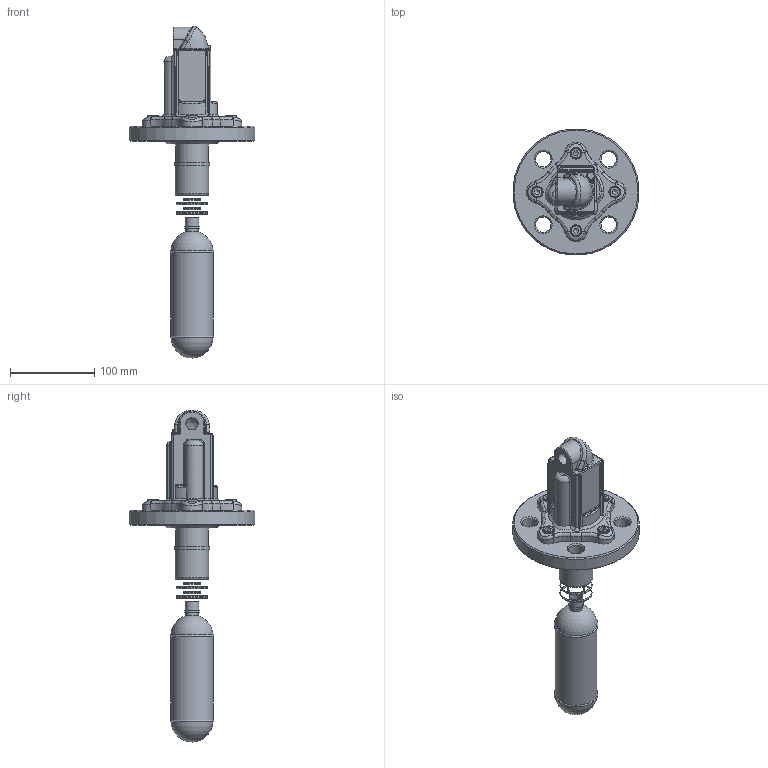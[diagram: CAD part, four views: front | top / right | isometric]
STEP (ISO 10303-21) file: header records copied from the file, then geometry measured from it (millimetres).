
FILE_DESCRIPTION(/* description */ (''),/* implementation_level */ '2;1');
FILE_NAME(/* name */ '\\Srvgest\camlogic\TECNICO\Inventor\Step\2_STEP\PFG-LP.stp',/* time_stamp */ '2021-10-28T16:47:36+02:00',/* author */ ('nicola.ruozzi'),/* organization */ (''),/* preprocessor_version */ 'ST-DEVELOPER v18.1',/* originating_system */ 'Autodesk Inventor 2022',/* authorisation */ '');
FILE_SCHEMA (('AUTOMOTIVE_DESIGN { 1 0 10303 214 3 1 1 }'));
Length unit declared in the file: millimetre
Products named in the file (1): PFG-LP22
Bounding box: 149.43 x 149.43 x 393.96 mm (x, y, z)
Volume: 960817.9 mm3; surface area: 111675.7 mm2
Topology: 1 solids, 4 shells, 459 faces, 1165 edges, 731 vertices
Faces by surface type: cylinder 159, plane 144, bspline 51, torus 50, cone 41, sphere 14
Full cylindrical faces by diameter (mm): 5 x1, 6.88 x1, 13 x4, 14 x4, 14.5 x1, 15 x1, 16 x1, 17 x1, 18 x4, 19 x2, 38 x3, 40 x1, 42 x1, 50 x1, 150 x1
Entity records: 16413 total; most frequent: CARTESIAN_POINT 5027, ORIENTED_EDGE 2318, DIRECTION 2301, EDGE_CURVE 1159, AXIS2_PLACEMENT_3D 918, VERTEX_POINT 731, EDGE_LOOP 492, CIRCLE 490
